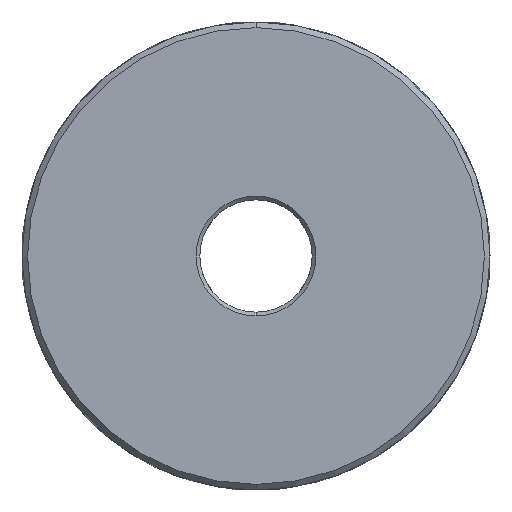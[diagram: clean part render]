
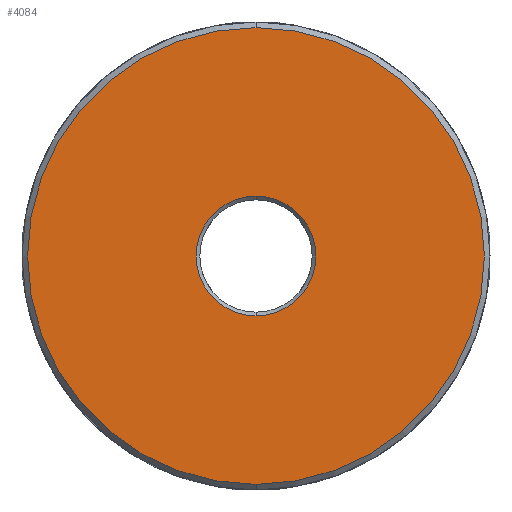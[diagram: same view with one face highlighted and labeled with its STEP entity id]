
A CAD part, front view. The second image highlights one B-rep face of the part: STEP entity #4084.
In plain terms, the highlighted planar face has unit normal (0, -1, 0).
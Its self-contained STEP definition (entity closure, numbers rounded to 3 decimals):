
#298 = EDGE_CURVE ( 'NONE', #2236, #2443, #1236, .T. ) ;
#384 = DIRECTION ( 'NONE',  ( 0., 0., 1. ) ) ;
#507 = DIRECTION ( 'NONE',  ( 0., 1., 0. ) ) ;
#511 = DIRECTION ( 'NONE',  ( 0., 0., 1. ) ) ;
#666 = AXIS2_PLACEMENT_3D ( 'NONE', #1997, #4894, #1372 ) ;
#669 = EDGE_CURVE ( 'NONE', #7460, #3441, #1960, .T. ) ;
#1079 = CARTESIAN_POINT ( 'NONE',  ( 0., 0., 0. ) ) ;
#1156 = EDGE_CURVE ( 'NONE', #3441, #7460, #4460, .T. ) ;
#1236 = CIRCLE ( 'NONE', #4943, 24.4 ) ;
#1372 = DIRECTION ( 'NONE',  ( 0., 0., 1. ) ) ;
#1396 = PLANE ( 'NONE',  #666 ) ;
#1528 = ORIENTED_EDGE ( 'NONE', *, *, #1156, .T. ) ;
#1778 = DIRECTION ( 'NONE',  ( 0., -1., 0. ) ) ;
#1886 = DIRECTION ( 'NONE',  ( 0., 1., 0. ) ) ;
#1960 = CIRCLE ( 'NONE', #6160, 6.4 ) ;
#1997 = CARTESIAN_POINT ( 'NONE',  ( -50., 0., 32.858 ) ) ;
#2235 = CARTESIAN_POINT ( 'NONE',  ( 0., 0., 24.4 ) ) ;
#2236 = VERTEX_POINT ( 'NONE', #2235 ) ;
#2240 = CARTESIAN_POINT ( 'NONE',  ( 0., 0., 6.4 ) ) ;
#2245 = CARTESIAN_POINT ( 'NONE',  ( 0., 0., -6.4 ) ) ;
#2443 = VERTEX_POINT ( 'NONE', #7264 ) ;
#2678 = CARTESIAN_POINT ( 'NONE',  ( 0., 0., 0. ) ) ;
#3319 = AXIS2_PLACEMENT_3D ( 'NONE', #4153, #1778, #5335 ) ;
#3441 = VERTEX_POINT ( 'NONE', #2245 ) ;
#3973 = CIRCLE ( 'NONE', #3319, 24.4 ) ;
#4084 = ADVANCED_FACE ( 'NONE', ( #5331, #6054 ), #1396, .F. ) ;
#4102 = EDGE_LOOP ( 'NONE', ( #1528, #5035 ) ) ;
#4153 = CARTESIAN_POINT ( 'NONE',  ( 0., 0., 0. ) ) ;
#4460 = CIRCLE ( 'NONE', #4462, 6.4 ) ;
#4462 = AXIS2_PLACEMENT_3D ( 'NONE', #7157, #1886, #7182 ) ;
#4495 = ORIENTED_EDGE ( 'NONE', *, *, #6926, .T. ) ;
#4894 = DIRECTION ( 'NONE',  ( 0., 1., 0. ) ) ;
#4943 = AXIS2_PLACEMENT_3D ( 'NONE', #1079, #5752, #511 ) ;
#5035 = ORIENTED_EDGE ( 'NONE', *, *, #669, .T. ) ;
#5331 = FACE_BOUND ( 'NONE', #4102, .T. ) ;
#5335 = DIRECTION ( 'NONE',  ( 0., 0., 1. ) ) ;
#5752 = DIRECTION ( 'NONE',  ( 0., -1., 0. ) ) ;
#6054 = FACE_OUTER_BOUND ( 'NONE', #7178, .T. ) ;
#6160 = AXIS2_PLACEMENT_3D ( 'NONE', #2678, #507, #384 ) ;
#6926 = EDGE_CURVE ( 'NONE', #2443, #2236, #3973, .T. ) ;
#7067 = ORIENTED_EDGE ( 'NONE', *, *, #298, .T. ) ;
#7157 = CARTESIAN_POINT ( 'NONE',  ( 0., 0., 0. ) ) ;
#7178 = EDGE_LOOP ( 'NONE', ( #7067, #4495 ) ) ;
#7182 = DIRECTION ( 'NONE',  ( 0., 0., 1. ) ) ;
#7264 = CARTESIAN_POINT ( 'NONE',  ( 0., 0., -24.4 ) ) ;
#7460 = VERTEX_POINT ( 'NONE', #2240 ) ;
